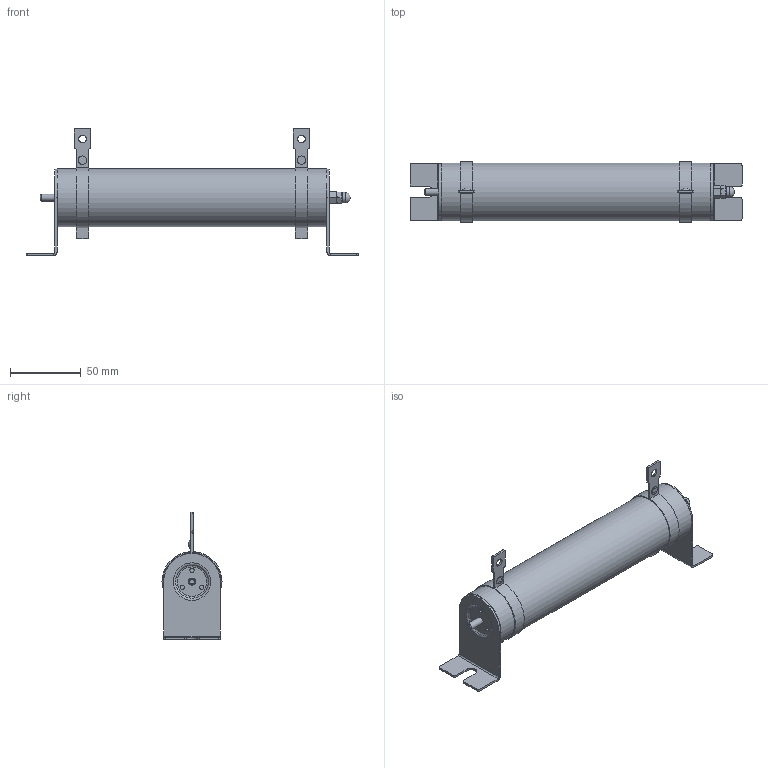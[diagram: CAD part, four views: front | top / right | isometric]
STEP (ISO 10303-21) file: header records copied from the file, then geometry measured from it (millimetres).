
FILE_DESCRIPTION(('STEP AP203'), '1');
FILE_NAME('Ðåçèñòîð òîðìîçíîé _ 160 Âò 200 Îì', '', ('UNSPECIFIED'), ('UNSPECIFIED'), 'C3D Converter', 'C3D Toolkit', '');
FILE_SCHEMA(('CONFIG_CONTROL_DESIGN'));
Length unit declared in the file: millimetre
Products named in the file (16): 160 Вт 200 Ом; РТ 160 Вт 200 Ом; ГОСТ 22032-76; DIN 125 (A); DIN 127 (A); DIN 934; ГОСТ 11860-85; ГОСТ 10300-80
Assembly tree (19 placements, depth 3):
  160 Вт 200 Ом
    РТ 160 Вт 200 Ом
    РТ 160 Вт 200 Ом  x2
    ГОСТ 22032-76  x2
      (unnamed)
    DIN 125 (A)
      (unnamed)
    DIN 127 (A)
      (unnamed)
    DIN 934
      (unnamed)
    ГОСТ 11860-85
      (unnamed)
    РТ 160 Вт 200 Ом  x2
    ГОСТ 10300-80  x2
      (unnamed)
Bounding box: 235 x 42.5 x 90 mm (x, y, z)
Volume: 262957.5 mm3; surface area: 49034.7 mm2
Topology: 13 solids, 13 shells, 191 faces, 424 edges, 271 vertices
Faces by surface type: plane 88, cylinder 68, cone 24, torus 8, sphere 3
Full cylindrical faces by diameter (mm): 3 x6, 3.5 x4, 4.134 x2, 5 x4, 5.3 x1, 5.5 x4, 6 x2, 7.5 x1, 10 x1, 25 x2, 41 x3
Entity records: 5607 total; most frequent: CARTESIAN_POINT 1577, DIRECTION 588, ORIENTED_EDGE 464, AXIS2_PLACEMENT_3D 251, EDGE_CURVE 232, EDGE_LOOP 184, VERTEX_POINT 166, ADVANCED_FACE 125
